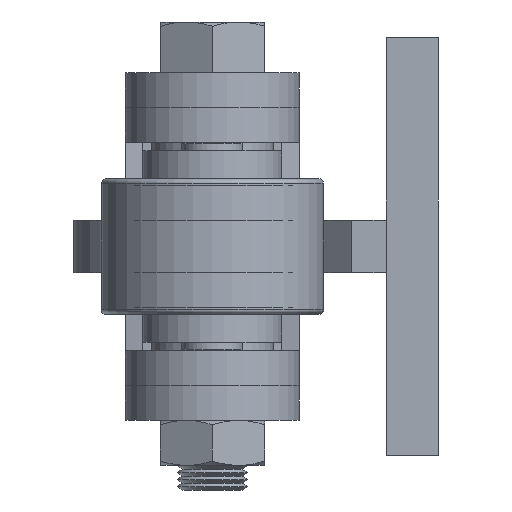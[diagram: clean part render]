
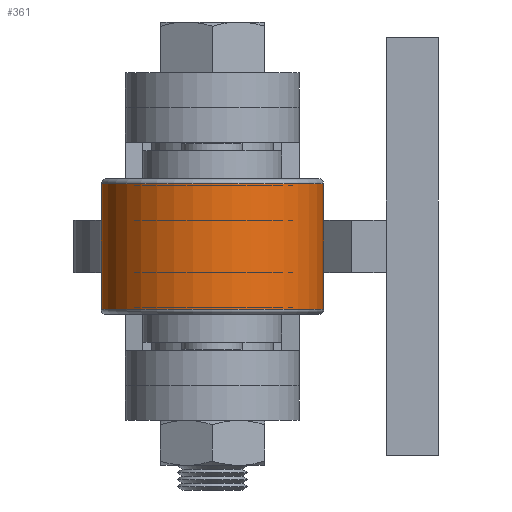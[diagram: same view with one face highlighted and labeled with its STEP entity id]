
A CAD part, left-side view. The second image highlights one B-rep face of the part: STEP entity #361.
In plain terms, the highlighted cylindrical face has radius 20.32 mm (diameter 40.64 mm), a partial arc.
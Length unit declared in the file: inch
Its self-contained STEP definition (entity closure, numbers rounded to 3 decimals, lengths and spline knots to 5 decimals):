
#320=CARTESIAN_POINT('',(5.56456,13.08107,-0.54107));
#321=DIRECTION('',(0.0,0.0,-1.0));
#322=DIRECTION('',(1.0,0.0,0.0));
#323=AXIS2_PLACEMENT_3D('',#320,#321,#322);
#324=CYLINDRICAL_SURFACE('',#323,0.8);
#325=CARTESIAN_POINT('',(5.56686,13.88107,-0.52607));
#326=VERTEX_POINT('',#325);
#327=CARTESIAN_POINT('',(5.56686,12.28107,-0.52607));
#328=VERTEX_POINT('',#327);
#329=CARTESIAN_POINT('',(5.56456,13.08107,-0.52607));
#330=DIRECTION('',(0.0,0.0,1.0));
#331=DIRECTION('',(-1.0,0.0,0.0));
#332=AXIS2_PLACEMENT_3D('',#329,#330,#331);
#333=CIRCLE('',#332,0.8);
#334=EDGE_CURVE('',#326,#328,#333,.T.);
#335=ORIENTED_EDGE('',*,*,#334,.F.);
#336=CARTESIAN_POINT('',(5.56686,13.88107,-1.43107));
#337=VERTEX_POINT('',#336);
#338=CARTESIAN_POINT('',(5.56686,13.88107,-0.52607));
#339=DIRECTION('',(0.0,0.0,-1.0));
#340=VECTOR('',#339,0.905);
#341=LINE('',#338,#340);
#342=EDGE_CURVE('',#326,#337,#341,.T.);
#343=ORIENTED_EDGE('',*,*,#342,.T.);
#344=CARTESIAN_POINT('',(5.56686,12.28107,-1.43107));
#345=VERTEX_POINT('',#344);
#346=CARTESIAN_POINT('',(5.56456,13.08107,-1.43107));
#347=DIRECTION('',(0.0,0.0,-1.0));
#348=DIRECTION('',(-1.0,0.0,0.0));
#349=AXIS2_PLACEMENT_3D('',#346,#347,#348);
#350=CIRCLE('',#349,0.8);
#351=EDGE_CURVE('',#345,#337,#350,.T.);
#352=ORIENTED_EDGE('',*,*,#351,.F.);
#353=CARTESIAN_POINT('',(5.56686,12.28107,-1.43107));
#354=DIRECTION('',(0.0,0.0,1.0));
#355=VECTOR('',#354,0.905);
#356=LINE('',#353,#355);
#357=EDGE_CURVE('',#345,#328,#356,.T.);
#358=ORIENTED_EDGE('',*,*,#357,.T.);
#359=EDGE_LOOP('',(#335,#343,#352,#358));
#360=FACE_OUTER_BOUND('',#359,.T.);
#361=ADVANCED_FACE('',(#360),#324,.T.);
